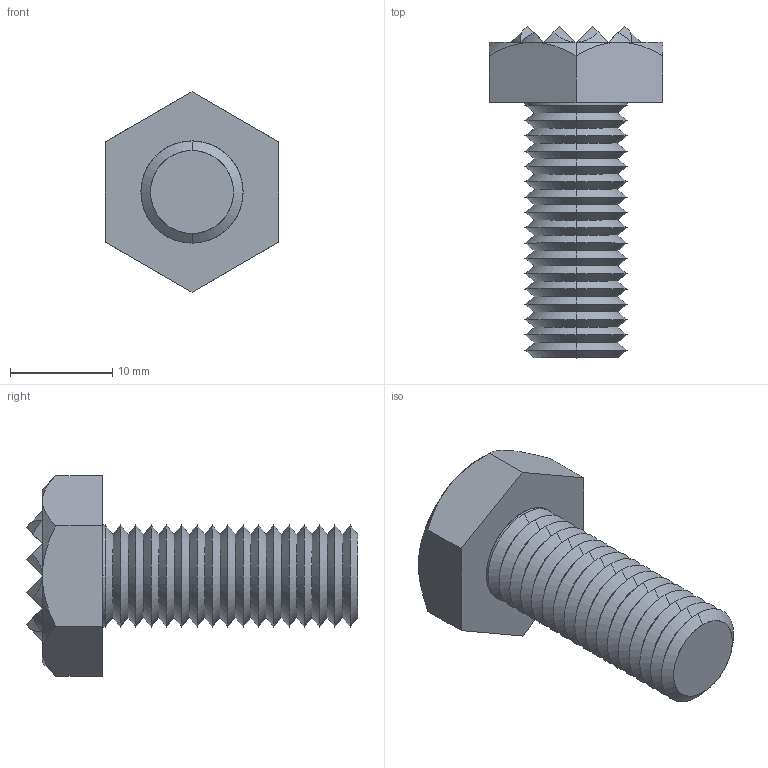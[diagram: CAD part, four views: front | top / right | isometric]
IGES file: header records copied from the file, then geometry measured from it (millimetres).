
Start section: SolidWorks IGES file using analytic representation for surfaces
Global section: file name: C:\Documents and Settings\IANO\Desktop\Temp File\Process pending\NEW\35400_v2\35400_v2_20170704_IGES\Default.igs; native system: SolidWorks 2009; preprocessor: SolidWorks 2009; author: IANO; date: 170703.081953; units: millimetre
Bounding box: 17 x 32.5 x 19.63 mm (x, y, z)
Surface area: 1998.6 mm2 (no closed solid volume)
Topology: 0 solids, 0 shells, 152 faces, 825 edges, 825 vertices
Faces by surface type: revolution 87, bspline 65
